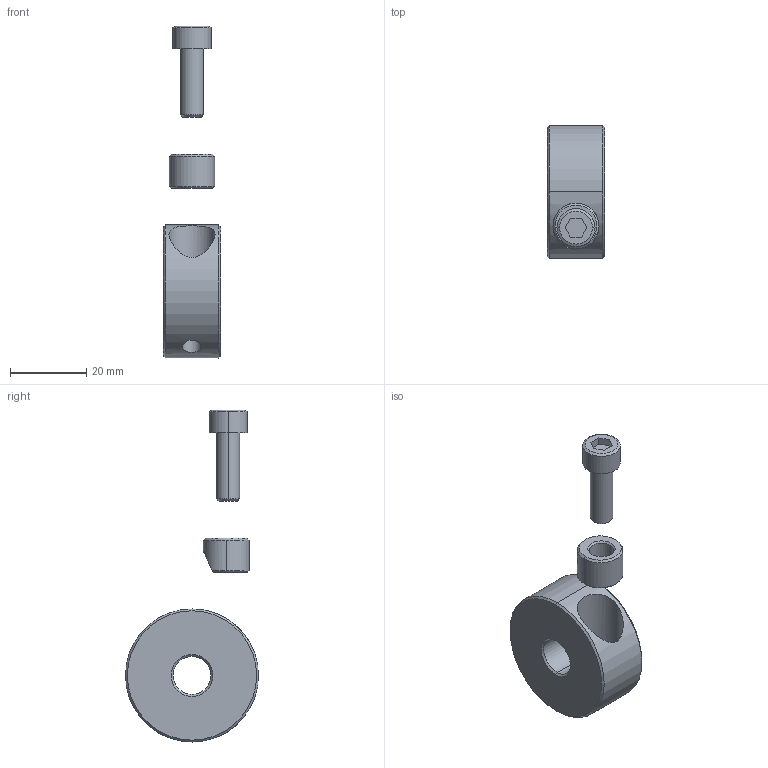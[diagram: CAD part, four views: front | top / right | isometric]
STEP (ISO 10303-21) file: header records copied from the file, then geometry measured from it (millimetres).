
FILE_DESCRIPTION (( 'STEP AP203' ), '1' );
FILE_NAME ('クサビカラー(ノーマル).STEP', '2020-10-23T04:20:08', ( '' ), ( '' ), 'SwSTEP 2.0', 'SolidWorks 2017', '' );
FILE_SCHEMA (( 'CONFIG_CONTROL_DESIGN' ));
Length unit declared in the file: millimetre
Products named in the file (4): _SCK1015S-Collar-Collar; クサビカラー(ノーマル); _SCK1015S-Bolt-Bolt; _SCK1015S-Wedge-wedge
Assembly tree (3 placements, depth 2):
  クサビカラー(ノーマル)
    _SCK1015S-Collar-Collar
    _SCK1015S-Wedge-wedge
    _SCK1015S-Bolt-Bolt
Bounding box: 15 x 35 x 87.32 mm (x, y, z)
Volume: 12737.1 mm3; surface area: 5770.8 mm2
Topology: 3 solids, 3 shells, 51 faces, 111 edges, 68 vertices
Faces by surface type: cone 19, cylinder 16, plane 16
Entity records: 2011 total; most frequent: CARTESIAN_POINT 444, DIRECTION 266, ORIENTED_EDGE 222, EDGE_CURVE 111, AXIS2_PLACEMENT_3D 106, VERTEX_POINT 68, EDGE_LOOP 61, LINE 54
